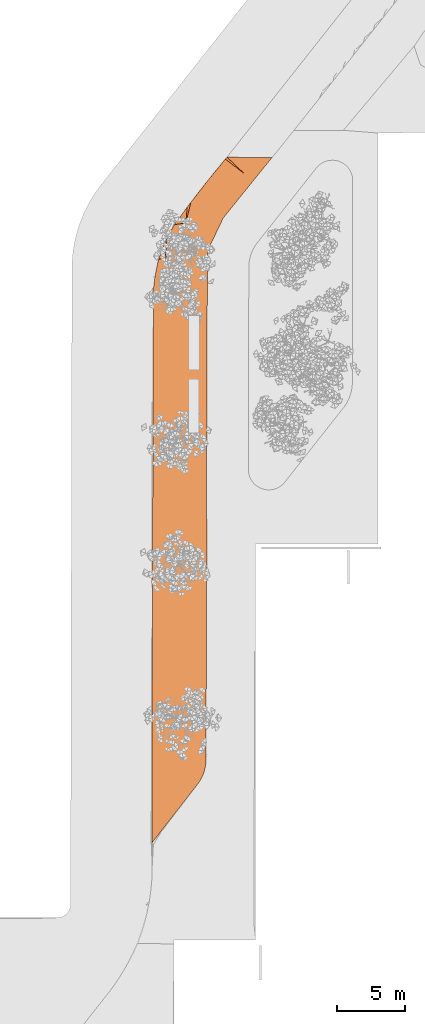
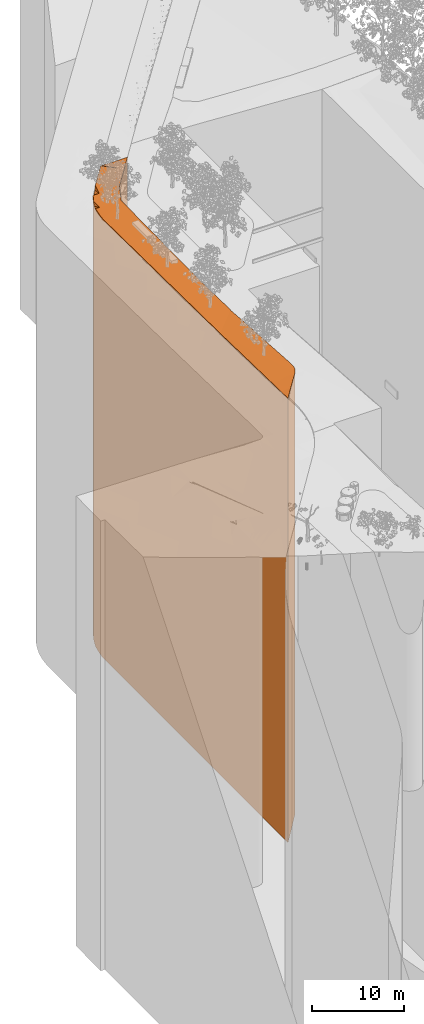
# One storey, part 61 of 69: 1 proxy.
"""IFC2X3 building model written with IfcOpenShell, lengths in millimetres."""

from ifc_helpers import new_model, entity, si_unit, converted_unit, derived_unit, money_unit, direction, frame, origin_with_axes, place, context, subcontext, project, spatial, faceted_brep, material, type_object, element, save


model = new_model("IFC2X3")

# Units and contexts
model_context = context("Model", 3, precision=0.01, world=origin_with_axes(), true_north=direction((0.0, 1.0)))
body_context = subcontext(model_context, "Body", "Model", "MODEL_VIEW")
ifc_project = project(units=[si_unit("LENGTHUNIT", "METRE", prefix="MILLI"), si_unit("AREAUNIT", "SQUARE_METRE"), si_unit("VOLUMEUNIT", "CUBIC_METRE"), converted_unit("PLANEANGLEUNIT", "DEGREE", entity("IfcPlaneAngleMeasure", 0.0174532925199), si_unit("PLANEANGLEUNIT", "RADIAN"), dimensions=[0, 0, 0, 0, 0, 0, 0]), si_unit("SOLIDANGLEUNIT", "STERADIAN"), money_unit("EUR"), converted_unit("TIMEUNIT", "Year", entity("IfcTimeMeasure", 31556926.0), si_unit("TIMEUNIT", "SECOND"), dimensions=[0, 0, 1, 0, 0, 0, 0]), si_unit("MASSUNIT", "GRAM", prefix="KILO"), si_unit("THERMODYNAMICTEMPERATUREUNIT", "DEGREE_CELSIUS"), si_unit("LUMINOUSINTENSITYUNIT", "LUMEN"), si_unit("ENERGYUNIT", "JOULE", prefix="MEGA"), derived_unit("THERMALCONDUCTANCEUNIT", [(si_unit("POWERUNIT", "WATT"), 1), (si_unit("LENGTHUNIT", "METRE"), -1), (si_unit("THERMODYNAMICTEMPERATUREUNIT", "KELVIN"), -1)]), derived_unit("SPECIFICHEATCAPACITYUNIT", [(si_unit("ENERGYUNIT", "JOULE"), 1), (si_unit("MASSUNIT", "GRAM", prefix="KILO"), -1), (si_unit("THERMODYNAMICTEMPERATUREUNIT", "KELVIN"), -1)]), derived_unit("MASSDENSITYUNIT", [(si_unit("MASSUNIT", "GRAM", prefix="KILO"), 1), (si_unit("VOLUMEUNIT", "CUBIC_METRE"), -1)])], contexts=[model_context])

# Site, building, storey
site_placement = place(None, origin_with_axes())
site = spatial("IfcSite", under=ifc_project, at=site_placement, Name="Puškini 31, Narva", CompositionType="ELEMENT")
building_placement = place(site_placement, origin_with_axes())
building = spatial("IfcBuilding", under=site, at=building_placement, Name="Narva Riigigümnaasium", CompositionType="ELEMENT")
storey_placement = place(building_placement, origin_with_axes())
storey = spatial("IfcBuildingStorey", under=building, at=storey_placement, Name="1.korrus 0.00", CompositionType="ELEMENT", Elevation=0.0)

# Proxy
ifc_material = material(Name="Roheala")
building_element_proxy_type = type_object("IfcBuildingElementProxyType", Name="Roheala", PredefinedType="NOTDEFINED")
proxy_placement = place(storey_placement, frame((20357.8352019, 202254.692076, -61100.0), z_axis=(0.0, 0.0, 1.0), x_axis=(1.0, 0.0, 0.0)))
element("IfcBuildingElementProxy", 1, at=proxy_placement, inside=storey, type_object=building_element_proxy_type, material=ifc_material, Name="Madal haljastus", context=body_context, shape_type="Brep", body=[
    faceted_brep([(163.26516035, 41156.671887, 58476.1798515), (655.161427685, 41014.1810774, 58400.0), (217.493004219, 41545.9225189, 58459.2444754), (119.036641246, 40766.1586969, 58493.09801), (486.684672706, 42894.3699001, 58400.0), (163.26516035, 41156.671887, 0.0), (217.493004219, 41545.9225189, 0.0), (105.102438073, 40606.1583102, 58500.0), (119.036641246, 40766.1586969, 0.0), (1063.48600437, 43003.9499972, 58300.0), (1205.22041731, 41422.2038456, 58300.0), (439.783111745, 42703.5442678, 58408.4464325), (355.797458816, 42319.6131234, 58425.3666258), (281.684509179, 41933.6545968, 58442.3030196), (281.684509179, 41933.6545968, 0.0), (486.684672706, 42894.3699001, 0.0), (583.8036596, 43185.379636, 0.0), (705.908553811, 43517.0452671, 0.0), (837.392319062, 43845.1058035, 0.0), (978.148683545, 44169.2960901, 0.0), (1053.10628221, 44329.3250951, 0.0), (1221.9865863, 44678.5629449, 0.0), (1386.28010668, 44991.4835982, 0.0), (1559.40258751, 45299.6074413, 0.0), (1650.30834499, 45451.1464372, 0.0), (2061.58830483, 46020.9273134, 0.0), (2592.64564143, 46738.6663216, 0.0), (2862.17690105, 47094.5394657, 0.0), (3287.91522646, 47653.5996866, 0.0), (3837.18115453, 48357.5017528, 0.0), (4115.73865379, 48706.3548942, 0.0), (4543.29485207, 49239.1200739, 0.0), (5110.23945948, 49928.8627728, 0.0), (5397.5564534, 50270.5376763, 0.0), (5516.76073398, 50411.9609911, 0.0), (8832.48738342, 50380.7958279, 0.0), (5254.98494369, 45951.9239097, 0.0), (4120.53306231, 43584.7245137, 0.0), (4046.44205636, 37948.3262875, 0.0), (4029.38061894, 28615.2684324, 0.0), (4024.75963342, 24826.6935507, 0.0), (4053.67465764, 19559.9277735, 0.0), (4002.16395639, 19535.1677044, 0.0), (4030.32038421, 15279.9390854, 0.0), (4014.7508686, 12426.6132933, 0.0), (3988.4321227, 11051.2588813, 0.0), (3981.43145914, 6726.05420479, 0.0), (3980.49793423, 6149.29654756, 0.0), (3979.74709012, 6036.78452579, 0.0), (3968.34033136, 5862.17400554, 0.0), (3946.89286018, 5688.51067058, 0.0), (3915.47592293, 5516.37141306, 0.0), (3874.19388351, 5346.32806226, 0.0), (3823.18387671, 5178.94548511, 0.0), (3762.61535264, 5014.77970969, 0.0), (3692.68951384, 4854.3760782, 0.0), (3613.63864693, 4698.26743537, 0.0), (3525.72535092, 4546.97235841, 0.0), (3477.48350793, 4473.98289638, 0.0), (3385.32515138, 4340.1506254, 0.0), (3331.24220207, 4271.37729064, 0.0), (2787.32381479, 3573.95557632, 0.0), (0.0, 0.0, 0.0), (5.86214961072, 3147.14446609, 0.0), (29.4766741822, 14909.4129583, 0.0), (86.1959971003, 34181.9719722, 0.0), (105.102438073, 40606.1583102, 0.0), (355.797458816, 42319.6131234, 0.0), (439.783111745, 42703.5442678, 0.0), (628.726093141, 40251.7848447, 58400.0), (583.8036596, 43185.379636, 58280.8545828), (1152.34974845, 39897.4113801, 58300.0), (1640.28733605, 43113.5300952, 58200.0), (1755.27940692, 41830.2266129, 58200.0), (705.908553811, 43517.0452671, 58143.4333464), (837.392319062, 43845.1058035, 58005.977005), (978.148683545, 44169.2960901, 57868.5966577), (1053.10628221, 44329.3250951, 58300.0), (1221.9865863, 44678.5629449, 57800.0), (1386.28010668, 44991.4835982, 57800.0), (1559.40258751, 45299.6074413, 57800.0), (1650.30834499, 45451.1464372, 58200.0), (2061.58830483, 46020.9273134, 57800.0), (2592.64564143, 46738.6663216, 57800.0), (2862.17690105, 47094.5394657, 58100.0), (3287.91522646, 47653.5996866, 57800.0), (3837.18115453, 48357.5017528, 57800.0), (4115.73865379, 48706.3548942, 58000.0), (4543.29485207, 49239.1200739, 57800.0), (5110.23945948, 49928.8627728, 57800.0), (5397.5564534, 50270.5376763, 57900.0), (5516.76073398, 50411.9609911, 57800.0), (8832.48738342, 50380.7958279, 57800.0), (8658.31178928, 50165.1701475, 57800.0), (5254.98494369, 45951.9239097, 57800.0), (4120.53306231, 43584.7245137, 57800.0), (4046.44205636, 37948.3262875, 57800.0), (4029.38061894, 28615.2684324, 57711.7800088), (4024.75963342, 24826.6935507, 57700.0), (4053.67465764, 19559.9277735, 57800.0), (4002.16395639, 19535.1677044, 57800.0), (4010.87867852, 18218.1279416, 57900.0), (4020.57627205, 16752.5486517, 58000.0), (4030.32038421, 15279.9390854, 58100.0), (4022.53562641, 13853.2761894, 58200.0), (4014.7508686, 12426.6132933, 58300.0), (3988.4321227, 11051.2588813, 58400.0), (3986.09877072, 9609.64912587, 58500.0), (3983.76519134, 8167.89887006, 58600.0), (3981.43145914, 6726.05420479, 58700.0), (3980.49793423, 6149.29654756, 58700.0), (3979.74709012, 6036.78452579, 58712.3456974), (3968.34033136, 5862.17400554, 58731.8420674), (3946.89286018, 5688.51067058, 58751.5648512), (3915.47592293, 5516.37141306, 58771.4485317), (3874.19388351, 5346.32806226, 58791.4270573), (3823.18387671, 5178.94548511, 58811.4340614), (3762.61535264, 5014.77970969, 58831.4030826), (3692.68951384, 4854.3760782, 58851.267786), (3613.63864693, 4698.26743537, 58870.9621829), (3525.72535092, 4546.97235841, 58890.4208506), (3477.48350793, 4473.98289638, 58900.0), (3385.32515138, 4340.1506254, 58900.0), (3331.24220207, 4271.37729064, 58900.0), (2787.32381479, 3573.95557632, 59000.0), (2090.49286123, 2680.46668242, 59100.0), (1393.66190717, 1786.97778787, 59200.0), (696.830953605, 893.488893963, 59300.0), (0.0, 0.0, 59300.0), (2.93107480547, 1573.57223305, 59200.0), (5.86214961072, 3147.14446609, 59200.0), (13.7336578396, 7067.90063014, 59100.0), (21.6051659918, 10988.6567941, 59000.0), (29.4766741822, 14909.4129583, 58900.0), (48.383115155, 21333.5992962, 58800.0), (67.2895561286, 27757.7856342, 58700.0), (86.1959971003, 34181.9719722, 58600.0), (595.637210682, 39107.2970755, 58400.0), (1086.17198329, 37608.4358407, 58300.0), (1675.97340352, 39543.0379146, 58200.0), (2305.33839666, 42238.249381, 58100.0), (2217.08866772, 43223.1101922, 58100.0), (2492.24313618, 45575.1973403, 58100.0), (6789.13504725, 49200.8677401, 57800.0), (8552.47823152, 50110.5709476, 57800.0), (5302.7147421, 46971.2850207, 57800.0), (5018.0475096, 45947.3500478, 57800.0), (3948.19180295, 43714.9399967, 57800.0), (3947.49266273, 43551.8504844, 57800.0), (3955.51536551, 43462.3176837, 57800.0), (3770.46802403, 38125.5440535, 57800.0), (3538.84584633, 30114.1296671, 57800.0), (3696.05529021, 27473.1138096, 57800.0), (3691.81938686, 24000.2535013, 57800.0), (3641.0105672, 19114.644546, 57900.0), (3279.85717776, 18694.1213866, 58000.0), (2918.70378857, 18273.5982282, 58100.0), (3995.4286449, 15373.9049139, 58100.0), (3993.09748605, 13933.6501335, 58200.0), (3990.76511466, 12492.6462117, 58300.0), (1474.09023131, 16591.5055928, 58500.0), (751.783452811, 15750.459276, 58700.0), (390.630063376, 15329.9361167, 58800.0), (3877.61381123, 5574.19440671, 58760.5747558), (3319.16856762, 4629.1455595, 58900.0), (2214.73309499, 4135.14519502, 59000.0), (1110.29762224, 3641.14483057, 59100.0), (362.802002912, 16051.5675811, 58800.0), (696.127331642, 17193.7222039, 58700.0), (1029.45266037, 18335.8768268, 58600.0), (1362.7779891, 19478.0314496, 58500.0), (1696.10331783, 20620.1860725, 58400.0), (2029.42864656, 21762.3406953, 58300.0), (1576.7067559, 36109.574606, 58200.0), (2199.59705859, 39188.6644491, 58100.0), (2855.39738616, 42646.2721483, 58000.0), (2793.88999938, 43332.6902893, 58000.0), (2224.77920957, 45017.0948273, 58100.0), (3334.17792735, 45699.2482425, 58000.0), (4176.11271854, 45823.2991456, 57900.0), (3373.72093849, 44148.9916066, 57900.0), (3370.69133118, 43442.2703873, 57900.0), (3405.45637577, 43054.2949156, 57900.0), (3246.84436896, 38479.917519, 57900.0), (3048.31107372, 31612.9909018, 57900.0), (3358.87914018, 23173.8134519, 57900.0), (2557.55039926, 17853.0750698, 58200.0), (1835.24362063, 17012.0287521, 58400.0), (1112.936842, 16170.9824344, 58600.0), (362.416920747, 15735.8530076, 58800.0), (695.357167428, 16562.293057, 58700.0), (1028.29741399, 17388.7331064, 58600.0), (1361.23766056, 18215.1731557, 58500.0), (1694.17790724, 19041.6132051, 58400.0), (2362.75397529, 22904.4953182, 58200.0), (2027.1181538, 19868.0532545, 58300.0), (2067.24152851, 34610.7133713, 58100.0), (2723.22071378, 38834.2909845, 58000.0), (2799.25007403, 44583.0432174, 58000.0), (3362.72996148, 26330.9591867, 57900.0), (2557.77630112, 33111.8521366, 58000.0), (3025.93889361, 22347.3734026, 58000.0), (2692.99864705, 21520.9333532, 58100.0), (2360.05840037, 20694.4933038, 58200.0), (2196.39700994, 17432.5519105, 58300.0), (2696.07930402, 24046.649941, 58100.0), (3029.40463275, 25188.8045639, 58000.0)], [[[0, 1, 2]], [[3, 1, 0]], [[2, 1, 4]], [[5, 0, 2, 6]], [[3, 7, 1]], [[8, 3, 0, 5]], [[9, 4, 1, 10]], [[11, 12, 13, 2, 4]], [[6, 2, 13, 14]], [[15, 16, 17, 18, 19, 20, 21, 22, 23, 24, 25, 26, 27, 28, 29, 30, 31, 32, 33, 34, 35, 36, 37, 38, 39, 40, 41, 42, 43, 44, 45, 46, 47, 48, 49, 50, 51, 52, 53, 54, 55, 56, 57, 58, 59, 60, 61, 62, 63, 64, 65, 66, 8, 5, 6, 14, 67, 68]], [[66, 7, 3, 8]], [[7, 69, 1]], [[4, 9, 70]], [[1, 69, 71, 10]], [[72, 9, 10, 73]], [[67, 12, 11, 68]], [[14, 13, 12, 67]], [[68, 11, 4, 15]], [[15, 4, 70, 16]], [[16, 70, 74, 17]], [[17, 74, 75, 18]], [[18, 75, 76, 19]], [[19, 76, 77, 20]], [[20, 77, 78, 21]], [[21, 78, 79, 22]], [[22, 79, 80, 23]], [[23, 80, 81, 24]], [[24, 81, 82, 25]], [[25, 82, 83, 26]], [[26, 83, 84, 27]], [[27, 84, 85, 28]], [[28, 85, 86, 29]], [[29, 86, 87, 30]], [[30, 87, 88, 31]], [[31, 88, 89, 32]], [[32, 89, 90, 33]], [[33, 90, 91, 34]], [[34, 91, 92, 35]], [[35, 92, 93, 94, 36]], [[36, 94, 95, 37]], [[37, 95, 96, 38]], [[38, 96, 97, 39]], [[39, 97, 98, 40]], [[40, 98, 99, 41]], [[41, 99, 100, 42]], [[42, 100, 101, 102, 103, 43]], [[43, 103, 104, 105, 44]], [[44, 105, 106, 45]], [[45, 106, 107, 108, 109, 46]], [[46, 109, 110, 47]], [[47, 110, 111, 48]], [[48, 111, 112, 49]], [[49, 112, 113, 50]], [[50, 113, 114, 51]], [[51, 114, 115, 52]], [[52, 115, 116, 53]], [[53, 116, 117, 54]], [[54, 117, 118, 55]], [[55, 118, 119, 56]], [[56, 119, 120, 57]], [[57, 120, 121, 58]], [[58, 121, 122, 59]], [[59, 122, 123, 60]], [[60, 123, 124, 61]], [[61, 124, 125, 126, 127, 128, 62]], [[62, 128, 129, 130, 63]], [[63, 130, 131, 132, 133, 64]], [[64, 133, 134, 135, 136, 65]], [[65, 136, 7, 66]], [[7, 137, 69]], [[70, 9, 74]], [[137, 138, 71, 69]], [[10, 71, 139, 73]], [[72, 77, 9]], [[140, 141, 72, 73]], [[74, 9, 75]], [[76, 75, 77]], [[78, 77, 81]], [[79, 78, 81]], [[80, 79, 81]], [[82, 81, 142]], [[82, 142, 83]], [[83, 142, 84]], [[85, 84, 87]], [[86, 85, 87]], [[88, 87, 90]], [[89, 88, 90]], [[90, 143, 91]], [[144, 93, 92, 91, 143]], [[96, 95, 94, 93, 144, 143, 145, 146, 147, 148, 149, 150, 151]], [[97, 96, 151]], [[98, 97, 152]], [[99, 98, 153]], [[99, 153, 100]], [[100, 154, 101]], [[101, 155, 102]], [[103, 102, 156, 157]], [[104, 103, 158]], [[105, 104, 159]], [[105, 159, 106]], [[106, 160, 107]], [[107, 160, 108]], [[108, 161, 109]], [[109, 162, 110]], [[111, 110, 163]], [[112, 111, 163]], [[113, 112, 163]], [[114, 113, 163]], [[114, 163, 115]], [[115, 163, 116]], [[117, 116, 164]], [[118, 117, 164]], [[119, 118, 164]], [[120, 119, 164]], [[121, 120, 164]], [[123, 122, 121, 164]], [[124, 123, 165]], [[165, 166, 125, 124]], [[130, 126, 125, 166]], [[127, 126, 129]], [[129, 128, 127]], [[130, 129, 126]], [[131, 130, 166]], [[131, 166, 165, 132]], [[133, 132, 165, 164]], [[133, 167, 134]], [[134, 167, 168, 135]], [[169, 136, 135, 168]], [[170, 7, 136, 169]], [[137, 7, 170, 171]], [[172, 138, 137, 171]], [[139, 71, 138, 173]], [[73, 139, 174, 140]], [[77, 72, 81]], [[75, 9, 77]], [[175, 176, 141, 140]], [[141, 177, 81, 72]], [[142, 81, 177]], [[178, 84, 142]], [[84, 178, 87]], [[90, 87, 179]], [[143, 90, 145]], [[146, 145, 179]], [[179, 180, 147, 146]], [[180, 181, 148, 147]], [[181, 182, 149, 148]], [[150, 149, 182, 183]], [[184, 151, 150, 183]], [[97, 151, 152]], [[98, 152, 153]], [[153, 185, 154, 100]], [[154, 155, 101]], [[156, 102, 155]], [[156, 186, 157]], [[103, 157, 158]], [[158, 159, 104]], [[159, 187, 106]], [[160, 106, 187]], [[160, 188, 108]], [[161, 108, 188]], [[162, 109, 161]], [[110, 162, 163]], [[163, 164, 116]], [[164, 165, 123]], [[163, 133, 164]], [[133, 189, 167]], [[168, 167, 190]], [[168, 190, 191, 169]], [[169, 191, 192, 170]], [[193, 171, 170, 192]], [[194, 173, 138, 172]], [[195, 172, 171, 193]], [[174, 139, 173, 196]], [[140, 174, 197, 175]], [[182, 181, 176, 175]], [[198, 177, 141, 176]], [[198, 178, 142, 177]], [[179, 87, 178]], [[145, 90, 179]], [[180, 179, 178, 198]], [[198, 176, 181, 180]], [[183, 182, 175, 197]], [[152, 151, 184, 199]], [[183, 197, 200, 184]], [[199, 185, 153, 152]], [[201, 155, 154, 185]], [[202, 156, 155, 201]], [[156, 202, 203, 186]], [[157, 186, 158]], [[158, 204, 159]], [[204, 187, 159]], [[187, 193, 192, 160]], [[160, 192, 191, 188]], [[188, 191, 190, 161]], [[189, 162, 161]], [[162, 133, 163]], [[133, 162, 189]], [[161, 167, 189]], [[167, 161, 190]], [[205, 196, 173, 194]], [[203, 194, 172, 195]], [[193, 187, 204, 195]], [[196, 200, 197, 174]], [[199, 184, 200, 206]], [[185, 199, 206, 201]], [[205, 202, 201, 206]], [[194, 203, 202, 205]], [[195, 204, 186, 203]], [[204, 158, 186]], [[206, 200, 196, 205]]]),
])

save(model, "model.ifc")
